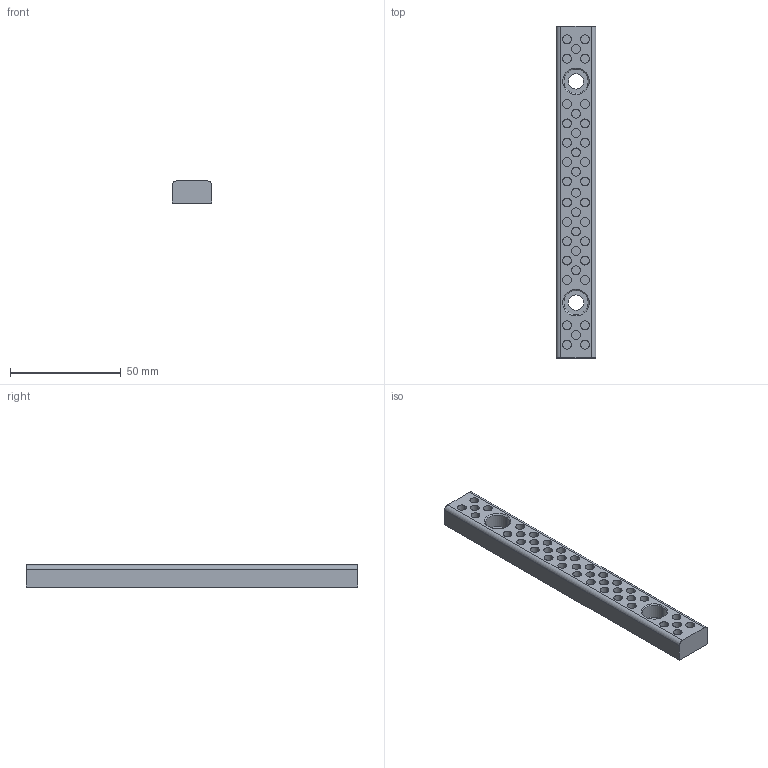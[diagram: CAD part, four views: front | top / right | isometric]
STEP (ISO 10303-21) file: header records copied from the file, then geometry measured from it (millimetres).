
FILE_DESCRIPTION (( 'STEP AP214' ), '1' );
FILE_NAME ('SW220-01-18X150.STEP', '2020-10-14T07:02:33', ( 'August' ), ( '' ), 'SwSTEP 2.0', 'SolidWorks 2018', '' );
FILE_SCHEMA (( 'AUTOMOTIVE_DESIGN' ));
Length unit declared in the file: millimetre
Products named in the file (1): SW220-01-18X150
Bounding box: 18 x 150 x 10 mm (x, y, z)
Volume: 21839.6 mm3; surface area: 12273.9 mm2
Topology: 1 solids, 1 shells, 139 faces, 284 edges, 188 vertices
Faces by surface type: cylinder 88, plane 47, cone 4
Entity records: 4030 total; most frequent: DIRECTION 744, CARTESIAN_POINT 612, ORIENTED_EDGE 568, AXIS2_PLACEMENT_3D 320, EDGE_CURVE 284, VERTEX_POINT 188, EDGE_LOOP 184, CIRCLE 180
